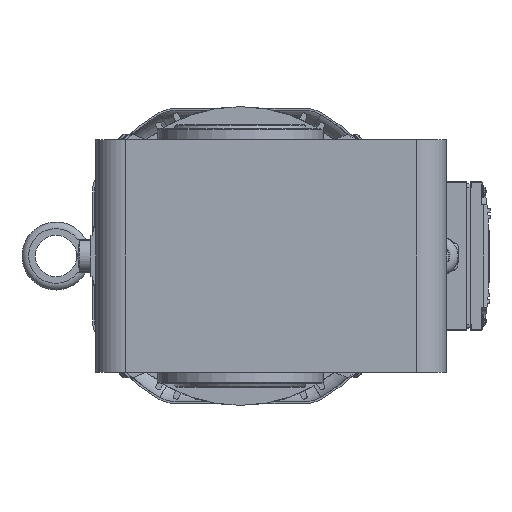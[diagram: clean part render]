
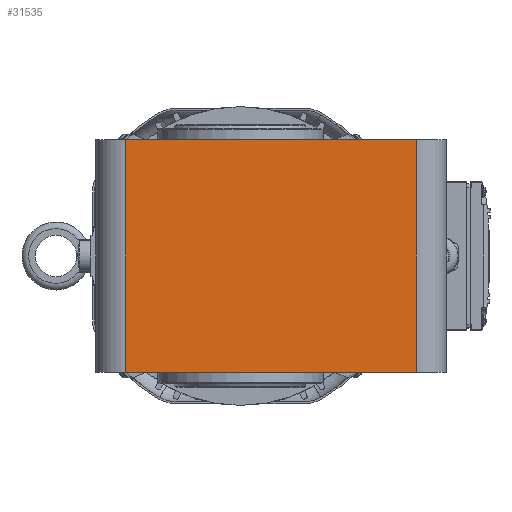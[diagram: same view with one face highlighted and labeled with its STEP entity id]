
A CAD part, left-side view. The second image highlights one B-rep face of the part: STEP entity #31535.
In plain terms, the highlighted planar face has unit normal (-1, 0, 0).
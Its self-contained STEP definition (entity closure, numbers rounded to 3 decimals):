
#2433=LINE('',#61172,#4502);
#2458=LINE('',#61282,#4527);
#2459=LINE('',#61286,#4528);
#2460=LINE('',#61287,#4529);
#4502=VECTOR('',#41628,175.);
#4527=VECTOR('',#41743,140.);
#4528=VECTOR('',#41748,140.);
#4529=VECTOR('',#41749,175.);
#7305=FACE_OUTER_BOUND('',#9194,.T.);
#9194=EDGE_LOOP('',(#25548,#25549,#25550,#25551));
#13843=VERTEX_POINT('',#61169);
#13844=VERTEX_POINT('',#61171);
#13884=VERTEX_POINT('',#61281);
#13885=VERTEX_POINT('',#61285);
#17900=EDGE_CURVE('',#13844,#13843,#2433,.T.);
#17953=EDGE_CURVE('',#13844,#13884,#2458,.T.);
#17955=EDGE_CURVE('',#13885,#13843,#2459,.T.);
#17956=EDGE_CURVE('',#13885,#13884,#2460,.T.);
#25548=ORIENTED_EDGE('',*,*,#17953,.F.);
#25549=ORIENTED_EDGE('',*,*,#17900,.T.);
#25550=ORIENTED_EDGE('',*,*,#17955,.F.);
#25551=ORIENTED_EDGE('',*,*,#17956,.T.);
#28583=PLANE('',#34540);
#31535=ADVANCED_FACE('',(#7305),#28583,.T.);
#34540=AXIS2_PLACEMENT_3D('',#61284,#41746,#41747);
#41628=DIRECTION('',(0.,1.,0.));
#41743=DIRECTION('',(0.,0.,-1.));
#41746=DIRECTION('center_axis',(-1.,0.,0.));
#41747=DIRECTION('ref_axis',(0.,0.,1.));
#41748=DIRECTION('',(0.,0.,1.));
#41749=DIRECTION('',(0.,-1.,0.));
#61169=CARTESIAN_POINT('',(-115.106,106.615,70.));
#61171=CARTESIAN_POINT('',(-115.106,-68.385,70.));
#61172=CARTESIAN_POINT('',(-115.106,-68.385,70.));
#61281=CARTESIAN_POINT('',(-115.106,-68.385,-70.));
#61282=CARTESIAN_POINT('',(-115.106,-68.385,70.));
#61284=CARTESIAN_POINT('Origin',(-115.106,-86.385,-70.));
#61285=CARTESIAN_POINT('',(-115.106,106.615,-70.));
#61286=CARTESIAN_POINT('',(-115.106,106.615,-70.));
#61287=CARTESIAN_POINT('',(-115.106,106.615,-70.));
